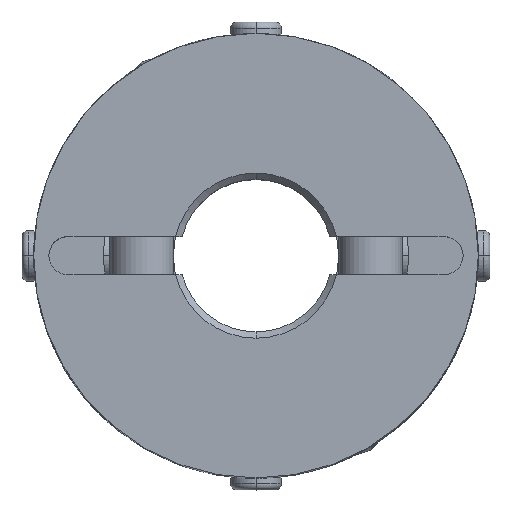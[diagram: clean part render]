
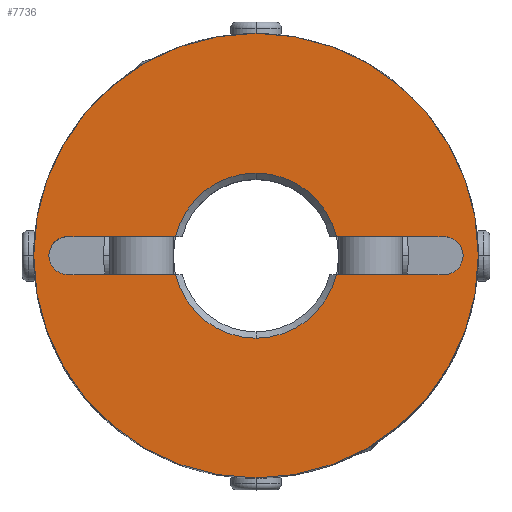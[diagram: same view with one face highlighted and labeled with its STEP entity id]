
A CAD part, top view. The second image highlights one B-rep face of the part: STEP entity #7736.
In plain terms, the highlighted planar face has unit normal (0, 0, 1).
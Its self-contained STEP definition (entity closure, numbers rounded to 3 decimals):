
#785=CARTESIAN_POINT('',(0.,17.5,17.5));
#786=VERTEX_POINT('',#785);
#793=CARTESIAN_POINT('',(0.,-17.5,17.5));
#794=VERTEX_POINT('',#793);
#795=CARTESIAN_POINT('',(0.0,0.0,17.5));
#796=DIRECTION('',(0.0,0.0,-1.0));
#797=DIRECTION('',(0.0,-1.0,0.0));
#798=AXIS2_PLACEMENT_3D('',#795,#796,#797);
#799=CIRCLE('',#798,17.5);
#800=EDGE_CURVE('',#786,#794,#799,.T.);
#1115=CARTESIAN_POINT('',(15.861,1.061,17.5));
#1116=VERTEX_POINT('',#1115);
#1132=CARTESIAN_POINT('',(14.8,-1.5,17.5));
#1133=VERTEX_POINT('',#1132);
#1140=CARTESIAN_POINT('',(14.8,0.,17.5));
#1141=DIRECTION('',(0.0,0.0,1.0));
#1142=DIRECTION('',(0.707,-0.707,0.0));
#1143=AXIS2_PLACEMENT_3D('',#1140,#1141,#1142);
#1144=CIRCLE('',#1143,1.5);
#1145=EDGE_CURVE('',#1133,#1116,#1144,.T.);
#1157=CARTESIAN_POINT('',(-15.861,-1.061,17.5));
#1158=VERTEX_POINT('',#1157);
#1174=CARTESIAN_POINT('',(-14.8,1.5,17.5));
#1175=VERTEX_POINT('',#1174);
#1182=CARTESIAN_POINT('',(-14.8,0.,17.5));
#1183=DIRECTION('',(0.0,0.0,1.0));
#1184=DIRECTION('',(-0.707,0.707,0.0));
#1185=AXIS2_PLACEMENT_3D('',#1182,#1183,#1184);
#1186=CIRCLE('',#1185,1.5);
#1187=EDGE_CURVE('',#1175,#1158,#1186,.T.);
#2307=CARTESIAN_POINT('',(0.,6.5,17.5));
#2308=VERTEX_POINT('',#2307);
#2316=CARTESIAN_POINT('',(6.325,1.5,17.5));
#2317=VERTEX_POINT('',#2316);
#2331=CARTESIAN_POINT('',(0.,0.,17.5));
#2332=DIRECTION('',(0.0,0.0,1.0));
#2333=DIRECTION('',(0.0,1.0,0.0));
#2334=AXIS2_PLACEMENT_3D('',#2331,#2332,#2333);
#2335=CIRCLE('',#2334,6.5);
#2336=EDGE_CURVE('',#2317,#2308,#2335,.T.);
#2346=CARTESIAN_POINT('',(0.,-6.5,17.5));
#2347=VERTEX_POINT('',#2346);
#2363=CARTESIAN_POINT('',(-6.325,-1.5,17.5));
#2364=VERTEX_POINT('',#2363);
#2378=CARTESIAN_POINT('',(0.,0.,17.5));
#2379=DIRECTION('',(0.0,0.0,1.0));
#2380=DIRECTION('',(0.0,-1.0,0.0));
#2381=AXIS2_PLACEMENT_3D('',#2378,#2379,#2380);
#2382=CIRCLE('',#2381,6.5);
#2383=EDGE_CURVE('',#2364,#2347,#2382,.T.);
#7452=CARTESIAN_POINT('',(14.8,1.5,17.5));
#7453=VERTEX_POINT('',#7452);
#7460=CARTESIAN_POINT('',(6.325,1.5,17.5));
#7461=DIRECTION('',(1.0,0.0,0.0));
#7462=VECTOR('',#7461,8.475);
#7463=LINE('',#7460,#7462);
#7464=EDGE_CURVE('',#2317,#7453,#7463,.T.);
#7621=CARTESIAN_POINT('',(6.325,-1.5,17.5));
#7622=VERTEX_POINT('',#7621);
#7636=CARTESIAN_POINT('',(14.8,-1.5,17.5));
#7637=DIRECTION('',(-1.0,0.0,0.0));
#7638=VECTOR('',#7637,8.475);
#7639=LINE('',#7636,#7638);
#7640=EDGE_CURVE('',#1133,#7622,#7639,.T.);
#7663=CARTESIAN_POINT('',(0.,0.,17.5));
#7664=DIRECTION('',(0.0,0.0,1.0));
#7665=DIRECTION('',(0.0,-1.0,0.0));
#7666=AXIS2_PLACEMENT_3D('',#7663,#7664,#7665);
#7667=CIRCLE('',#7666,6.5);
#7668=EDGE_CURVE('',#2347,#7622,#7667,.T.);
#7675=CARTESIAN_POINT('',(0.,-1.591,17.5));
#7676=DIRECTION('',(0.0,0.0,1.0));
#7677=DIRECTION('',(0.0,-1.0,0.0));
#7678=AXIS2_PLACEMENT_3D('',#7675,#7676,#7677);
#7679=PLANE('',#7678);
#7680=CARTESIAN_POINT('',(0.0,0.0,17.5));
#7681=DIRECTION('',(0.0,0.0,-1.0));
#7682=DIRECTION('',(0.0,-1.0,0.0));
#7683=AXIS2_PLACEMENT_3D('',#7680,#7681,#7682);
#7684=CIRCLE('',#7683,17.5);
#7685=EDGE_CURVE('',#794,#786,#7684,.T.);
#7686=ORIENTED_EDGE('',*,*,#7685,.F.);
#7687=ORIENTED_EDGE('',*,*,#800,.F.);
#7688=EDGE_LOOP('',(#7686,#7687));
#7689=FACE_OUTER_BOUND('',#7688,.T.);
#7690=ORIENTED_EDGE('',*,*,#2383,.F.);
#7691=CARTESIAN_POINT('',(-14.8,-1.5,17.5));
#7692=VERTEX_POINT('',#7691);
#7693=CARTESIAN_POINT('',(-6.325,-1.5,17.5));
#7694=DIRECTION('',(-1.0,0.0,0.0));
#7695=VECTOR('',#7694,8.475);
#7696=LINE('',#7693,#7695);
#7697=EDGE_CURVE('',#2364,#7692,#7696,.T.);
#7698=ORIENTED_EDGE('',*,*,#7697,.T.);
#7699=CARTESIAN_POINT('',(-14.8,0.,17.5));
#7700=DIRECTION('',(0.0,0.0,1.0));
#7701=DIRECTION('',(-0.707,0.707,0.0));
#7702=AXIS2_PLACEMENT_3D('',#7699,#7700,#7701);
#7703=CIRCLE('',#7702,1.5);
#7704=EDGE_CURVE('',#1158,#7692,#7703,.T.);
#7705=ORIENTED_EDGE('',*,*,#7704,.F.);
#7706=ORIENTED_EDGE('',*,*,#1187,.F.);
#7707=CARTESIAN_POINT('',(-6.325,1.5,17.5));
#7708=VERTEX_POINT('',#7707);
#7709=CARTESIAN_POINT('',(-14.8,1.5,17.5));
#7710=DIRECTION('',(1.0,0.0,0.0));
#7711=VECTOR('',#7710,8.475);
#7712=LINE('',#7709,#7711);
#7713=EDGE_CURVE('',#1175,#7708,#7712,.T.);
#7714=ORIENTED_EDGE('',*,*,#7713,.T.);
#7715=CARTESIAN_POINT('',(0.,0.,17.5));
#7716=DIRECTION('',(0.0,0.0,1.0));
#7717=DIRECTION('',(0.0,1.0,0.0));
#7718=AXIS2_PLACEMENT_3D('',#7715,#7716,#7717);
#7719=CIRCLE('',#7718,6.5);
#7720=EDGE_CURVE('',#2308,#7708,#7719,.T.);
#7721=ORIENTED_EDGE('',*,*,#7720,.F.);
#7722=ORIENTED_EDGE('',*,*,#2336,.F.);
#7723=ORIENTED_EDGE('',*,*,#7464,.T.);
#7724=CARTESIAN_POINT('',(14.8,0.,17.5));
#7725=DIRECTION('',(0.0,0.0,1.0));
#7726=DIRECTION('',(0.707,-0.707,0.0));
#7727=AXIS2_PLACEMENT_3D('',#7724,#7725,#7726);
#7728=CIRCLE('',#7727,1.5);
#7729=EDGE_CURVE('',#1116,#7453,#7728,.T.);
#7730=ORIENTED_EDGE('',*,*,#7729,.F.);
#7731=ORIENTED_EDGE('',*,*,#1145,.F.);
#7732=ORIENTED_EDGE('',*,*,#7640,.T.);
#7733=ORIENTED_EDGE('',*,*,#7668,.F.);
#7734=EDGE_LOOP('',(#7690,#7698,#7705,#7706,#7714,#7721,#7722,#7723,#7730,#7731,#7732,#7733));
#7735=FACE_BOUND('',#7734,.T.);
#7736=ADVANCED_FACE('',(#7689,#7735),#7679,.T.);
